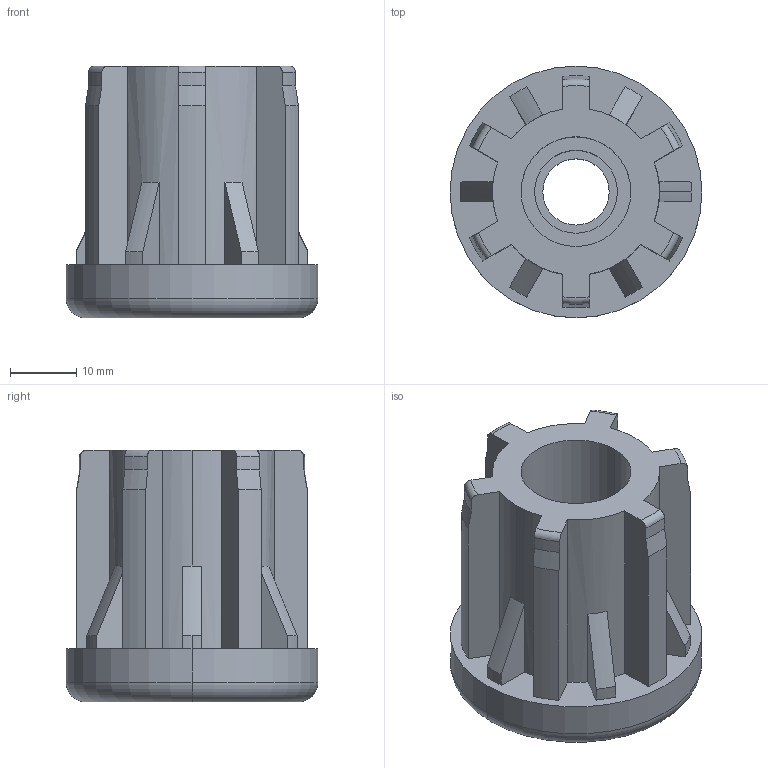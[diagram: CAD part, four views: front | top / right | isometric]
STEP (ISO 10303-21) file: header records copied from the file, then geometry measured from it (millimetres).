
FILE_DESCRIPTION (( 'STEP AP214' ), '1' );
FILE_NAME ('42006438210.STEP', '2020-02-25T17:12:01', ( '' ), ( '' ), 'SwSTEP 2.0', 'SolidWorks 2018', '' );
FILE_SCHEMA (( 'AUTOMOTIVE_DESIGN' ));
Length unit declared in the file: millimetre
Products named in the file (1): 42006438210
Bounding box: 38 x 38 x 38 mm (x, y, z)
Volume: 22031.9 mm3; surface area: 10145.4 mm2
Topology: 2 solids, 2 shells, 94 faces, 255 edges, 168 vertices
Faces by surface type: cylinder 38, plane 31, cone 17, torus 8
Entity records: 3154 total; most frequent: CARTESIAN_POINT 698, DIRECTION 513, ORIENTED_EDGE 510, EDGE_CURVE 255, AXIS2_PLACEMENT_3D 199, VERTEX_POINT 168, VECTOR 115, LINE 115
